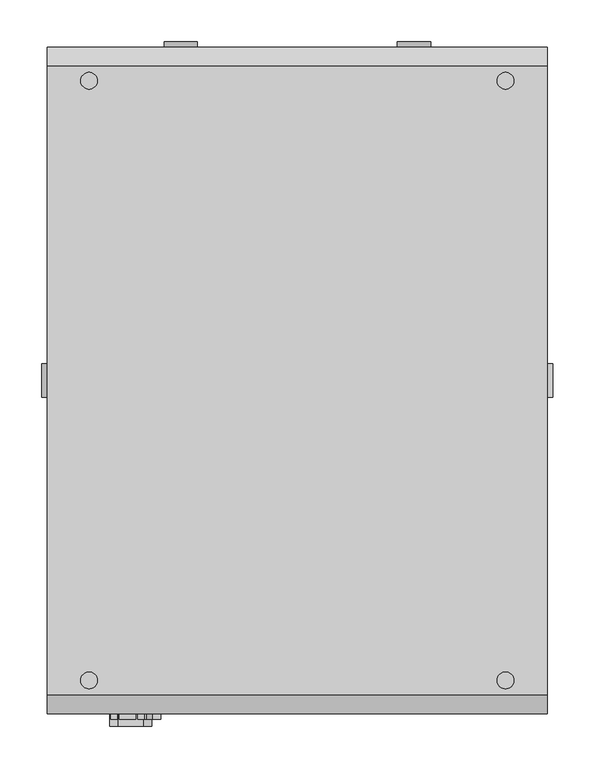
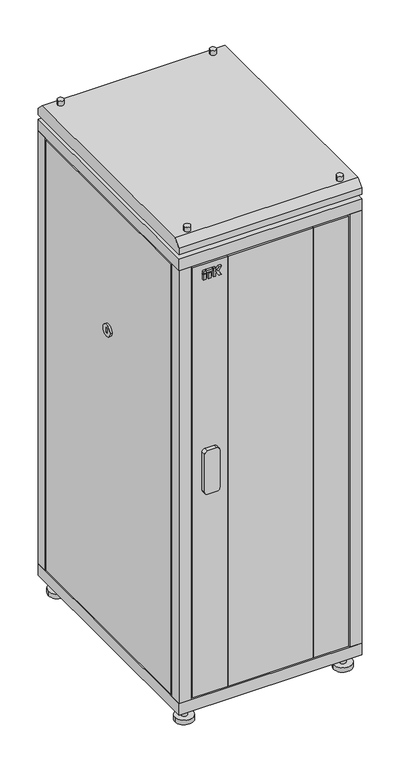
"""IFC4 building model written with IfcOpenShell, lengths in millimetres: proxy geometry, Шкафы ITK серия N_05 : LN05-33U68-G."""

from ifc_helpers import new_model, si_unit, point, frame, frame_2d, origin, origin_with_axes, place, context, project, spatial, polyline, circle_curve, trimmed, segment, composite_curve, outline, extrude, faceted_brep, source, transform, mapped, element, save
from ifc_brep_helpers import plane_surface, cylinder_surface, advanced_brep


def electrical_fixtures_8923b778(model_context):
    return source(origin(), model_context, "Body", "SolidModel", [
        extrude(outline(polyline([(-215.9746193, -407.0), (-224.197592, -407.0), (-224.197592, -400.0), (-215.9746193, -400.0), (-215.9746193, -407.0)])), frame((0.0, 0.0, 1535.0), z_axis=(0.0, 0.0, 1.0), x_axis=(1.0, 0.0, 0.0)), (0.0, 0.0, 1.0), 18.8087618),
        extrude(outline(polyline([(-199.9605777, -407.0), (-207.7053315, -407.0), (-207.7053315, -400.0), (-199.9605777, -400.0), (-199.9605777, -407.0)])), frame((0.0, 0.0, 1535.0), z_axis=(0.0, 0.0, 1.0), x_axis=(1.0, 0.0, 0.0)), (0.0, 0.0, 1.0), 18.8087618),
        extrude(outline(polyline([(-215.9746193, -407.0), (-224.197592, -407.0), (-224.197592, -400.0), (-215.9746193, -400.0), (-215.9746193, -407.0)])), frame((0.0, 0.0, 1556.4305892), z_axis=(0.0, 0.0, 1.0), x_axis=(1.0, 0.0, 0.0)), (0.0, 0.0, 1.0), 7.9794747),
        extrude(outline(polyline([(1535.0, -191.5184175), (1535.0, -183.7669278), (1546.0271455, -183.7669278), (1546.0271455, -180.8031229), (1535.0, -173.6420108), (1535.0, -164.197592), (1549.7278745, -174.8980192), (1564.410064, -164.197592), (1564.410064, -173.6420108), (1553.3829184, -180.8031229), (1553.3829184, -183.7669278), (1564.410064, -183.7669278), (1564.410064, -191.5184175), (1535.0, -191.5184175)])), frame((0.0, -407.0, 0.0), z_axis=(0.0, 1.0, 0.0), x_axis=(0.0, 0.0, 1.0)), (0.0, 0.0, 1.0), 7.0),
        extrude(outline(polyline([(-194.0851324, -407.0), (-213.5807768, -407.0), (-213.5807768, -400.0), (-194.0851324, -400.0), (-194.0851324, -407.0)])), frame((0.0, 0.0, 1556.4305892), z_axis=(0.0, 0.0, 1.0), x_axis=(1.0, 0.0, 0.0)), (0.0, 0.0, 1.0), 7.9794747),
        extrude(outline(composite_curve([segment(polyline([(945.0, -185.0), (945.0, -215.0)]), True, "CONTINUOUS"), segment(trimmed(circle_curve(frame_2d((935.0, -215.0)), 10.0), [point((945.0, -215.0))], [point((935.0, -225.0))], False, "CARTESIAN"), True, "CONTINUOUS"), segment(polyline([(935.0, -225.0), (805.0, -225.0)]), True, "CONTINUOUS"), segment(trimmed(circle_curve(frame_2d((805.0, -215.0)), 10.0), [point((805.0, -225.0))], [point((795.0, -215.0))], False, "CARTESIAN"), True, "CONTINUOUS"), segment(polyline([(795.0, -215.0), (795.0, -185.0)]), True, "CONTINUOUS"), segment(trimmed(circle_curve(frame_2d((805.0, -185.0)), 10.0), [point((795.0, -185.0))], [point((805.0, -175.0))], False, "CARTESIAN"), True, "CONTINUOUS"), segment(polyline([(805.0, -175.0), (935.0, -175.0)]), True, "CONTINUOUS"), segment(trimmed(circle_curve(frame_2d((935.0, -185.0)), 10.0), [point((935.0, -175.0))], [point((945.0, -185.0))], False, "CARTESIAN"), True, "CONTINUOUS")], self_intersect=False)), frame((0.0, -415.0, 0.0), z_axis=(0.0, 1.0, 0.0), x_axis=(0.0, 0.0, 1.0)), (0.0, 0.0, 1.0), 15.0),
        extrude(outline(polyline([(140.0, -380.0), (140.0, -400.0), (-140.0, -400.0), (-140.0, -380.0), (140.0, -380.0)])), frame((0.0, 0.0, 95.0), z_axis=(0.0, 0.0, 1.0), x_axis=(1.0, 0.0, 0.0)), (0.0, 0.0, 1.0), 1490.0),
        extrude(outline(polyline([(255.0, -380.0), (255.0, -400.0), (140.0, -400.0), (140.0, -380.0), (235.0, -380.0), (235.0, -365.0), (245.0, -365.0), (245.0, -380.0), (255.0, -380.0)])), frame((0.0, 0.0, 95.0), z_axis=(0.0, 0.0, 1.0), x_axis=(1.0, 0.0, 0.0)), (0.0, 0.0, 1.0), 1490.0),
        extrude(outline(polyline([(-140.0, -400.0), (-255.0, -400.0), (-255.0, -380.0), (-245.0, -380.0), (-245.0, -365.0), (-235.0, -365.0), (-235.0, -380.0), (-140.0, -380.0), (-140.0, -400.0)])), frame((0.0, 0.0, 95.0), z_axis=(0.0, 0.0, 1.0), x_axis=(1.0, 0.0, 0.0)), (0.0, 0.0, 1.0), 1490.0),
        extrude(outline(composite_curve([segment(trimmed(circle_curve(frame_2d((-260.0, 360.0)), 10.0), [point((-250.0, 360.0))], [point((-270.0, 360.0))], False, "CARTESIAN"), True, "CONTINUOUS"), segment(trimmed(circle_curve(frame_2d((-260.0, 360.0)), 10.0), [point((-270.0, 360.0))], [point((-250.0, 360.0))], False, "CARTESIAN"), True, "CONTINUOUS")], self_intersect=False)), frame((0.0, 0.0, 15.0), z_axis=(0.0, 0.0, 1.0), x_axis=(1.0, 0.0, 0.0)), (0.0, 0.0, 1.0), 35.0),
        extrude(outline(composite_curve([segment(trimmed(circle_curve(frame_2d((260.0, 360.0)), 10.0), [point((270.0, 360.0))], [point((250.0, 360.0))], False, "CARTESIAN"), True, "CONTINUOUS"), segment(trimmed(circle_curve(frame_2d((260.0, 360.0)), 10.0), [point((250.0, 360.0))], [point((270.0, 360.0))], False, "CARTESIAN"), True, "CONTINUOUS")], self_intersect=False)), frame((0.0, 0.0, 15.0), z_axis=(0.0, 0.0, 1.0), x_axis=(1.0, 0.0, 0.0)), (0.0, 0.0, 1.0), 35.0),
        extrude(outline(composite_curve([segment(trimmed(circle_curve(frame_2d((-260.0, -360.0)), 10.0), [point((-250.0, -360.0))], [point((-270.0, -360.0))], False, "CARTESIAN"), True, "CONTINUOUS"), segment(trimmed(circle_curve(frame_2d((-260.0, -360.0)), 10.0), [point((-270.0, -360.0))], [point((-250.0, -360.0))], False, "CARTESIAN"), True, "CONTINUOUS")], self_intersect=False)), frame((0.0, 0.0, 15.0), z_axis=(0.0, 0.0, 1.0), x_axis=(1.0, 0.0, 0.0)), (0.0, 0.0, 1.0), 35.0),
        extrude(outline(composite_curve([segment(trimmed(circle_curve(frame_2d((260.0, -360.0)), 10.0), [point((270.0, -360.0))], [point((250.0, -360.0))], False, "CARTESIAN"), True, "CONTINUOUS"), segment(trimmed(circle_curve(frame_2d((260.0, -360.0)), 10.0), [point((250.0, -360.0))], [point((270.0, -360.0))], False, "CARTESIAN"), True, "CONTINUOUS")], self_intersect=False)), frame((0.0, 0.0, 15.0), z_axis=(0.0, 0.0, 1.0), x_axis=(1.0, 0.0, 0.0)), (0.0, 0.0, 1.0), 35.0),
        extrude(outline(composite_curve([segment(trimmed(circle_curve(frame_2d((-260.0, 360.0)), 30.0), [point((-230.0, 360.0))], [point((-290.0, 360.0))], False, "CARTESIAN"), True, "CONTINUOUS"), segment(trimmed(circle_curve(frame_2d((-260.0, 360.0)), 30.0), [point((-290.0, 360.0))], [point((-230.0, 360.0))], False, "CARTESIAN"), True, "CONTINUOUS")], self_intersect=False)), origin_with_axes(), (0.0, 0.0, 1.0), 15.0),
        extrude(outline(composite_curve([segment(trimmed(circle_curve(frame_2d((260.0, 360.0)), 30.0), [point((290.0, 360.0))], [point((230.0, 360.0))], False, "CARTESIAN"), True, "CONTINUOUS"), segment(trimmed(circle_curve(frame_2d((260.0, 360.0)), 30.0), [point((230.0, 360.0))], [point((290.0, 360.0))], False, "CARTESIAN"), True, "CONTINUOUS")], self_intersect=False)), origin_with_axes(), (0.0, 0.0, 1.0), 15.0),
        extrude(outline(composite_curve([segment(trimmed(circle_curve(frame_2d((-260.0, -360.0)), 30.0), [point((-230.0, -360.0))], [point((-290.0, -360.0))], False, "CARTESIAN"), True, "CONTINUOUS"), segment(trimmed(circle_curve(frame_2d((-260.0, -360.0)), 30.0), [point((-290.0, -360.0))], [point((-230.0, -360.0))], False, "CARTESIAN"), True, "CONTINUOUS")], self_intersect=False)), origin_with_axes(), (0.0, 0.0, 1.0), 15.0),
        extrude(outline(composite_curve([segment(trimmed(circle_curve(frame_2d((260.0, -360.0)), 30.0), [point((290.0, -360.0))], [point((230.0, -360.0))], False, "CARTESIAN"), True, "CONTINUOUS"), segment(trimmed(circle_curve(frame_2d((260.0, -360.0)), 30.0), [point((230.0, -360.0))], [point((290.0, -360.0))], False, "CARTESIAN"), True, "CONTINUOUS")], self_intersect=False)), origin_with_axes(), (0.0, 0.0, 1.0), 15.0),
        advanced_brep(
        [(260.0, 360.0, 1705.0), (240.0, 360.0, 1705.0), (260.0, -360.0, 1705.0), (240.0, -360.0, 1705.0), (-240.0, 360.0, 1705.0), (-260.0, 360.0, 1705.0), (-240.0, -360.0, 1705.0), (-260.0, -360.0, 1705.0), (260.0, 360.0, 1630.0), (240.0, 360.0, 1630.0), (260.0, -360.0, 1630.0), (240.0, -360.0, 1630.0), (-240.0, 360.0, 1630.0), (-260.0, 360.0, 1630.0), (-240.0, -360.0, 1630.0), (-260.0, -360.0, 1630.0), (260.0, 360.0, 1690.0), (240.0, 360.0, 1690.0), (240.0, 360.0, 1645.0), (260.0, 360.0, 1645.0), (260.0, -360.0, 1690.0), (240.0, -360.0, 1690.0), (240.0, -360.0, 1645.0), (260.0, -360.0, 1645.0), (-240.0, 360.0, 1690.0), (-260.0, 360.0, 1690.0), (-260.0, 360.0, 1645.0), (-240.0, 360.0, 1645.0), (-240.0, -360.0, 1690.0), (-260.0, -360.0, 1690.0), (-260.0, -360.0, 1645.0), (-240.0, -360.0, 1645.0), (300.0, 377.5, 1690.0), (300.0, -377.5, 1690.0), (300.0, -400.0, 1667.5), (300.0, -400.0, 1645.0), (300.0, 400.0, 1645.0), (300.0, 400.0, 1667.5), (-300.0, 377.5, 1690.0), (-300.0, 400.0, 1667.5), (-300.0, 400.0, 1645.0), (-300.0, -400.0, 1645.0), (-300.0, -400.0, 1667.5), (-300.0, -377.5, 1690.0)],
        [
            (0, 1, circle_curve(frame((250.0, 360.0, 1705.0), z_axis=(0.0, 0.0, 1.0), x_axis=(-1.0, 0.0, 0.0)), 10.0)),
            (1, 0, circle_curve(frame((250.0, 360.0, 1705.0), z_axis=(0.0, 0.0, 1.0), x_axis=(-1.0, 0.0, 0.0)), 10.0)),
            (2, 3, circle_curve(frame((250.0, -360.0, 1705.0), z_axis=(0.0, 0.0, 1.0), x_axis=(-1.0, 0.0, 0.0)), 10.0)),
            (3, 2, circle_curve(frame((250.0, -360.0, 1705.0), z_axis=(0.0, 0.0, 1.0), x_axis=(-1.0, 0.0, 0.0)), 10.0)),
            (4, 5, circle_curve(frame((-250.0, 360.0, 1705.0), z_axis=(0.0, 0.0, 1.0), x_axis=(-1.0, 0.0, 0.0)), 10.0)),
            (5, 4, circle_curve(frame((-250.0, 360.0, 1705.0), z_axis=(0.0, 0.0, 1.0), x_axis=(-1.0, 0.0, 0.0)), 10.0)),
            (6, 7, circle_curve(frame((-250.0, -360.0, 1705.0), z_axis=(0.0, 0.0, 1.0), x_axis=(-1.0, 0.0, 0.0)), 10.0)),
            (7, 6, circle_curve(frame((-250.0, -360.0, 1705.0), z_axis=(0.0, 0.0, 1.0), x_axis=(-1.0, 0.0, 0.0)), 10.0)),
            (8, 9, circle_curve(frame((250.0, 360.0, 1630.0), z_axis=(0.0, 0.0, -1.0), x_axis=(-1.0, 0.0, 0.0)), 10.0)),
            (9, 8, circle_curve(frame((250.0, 360.0, 1630.0), z_axis=(0.0, 0.0, -1.0), x_axis=(-1.0, 0.0, 0.0)), 10.0)),
            (10, 11, circle_curve(frame((250.0, -360.0, 1630.0), z_axis=(0.0, 0.0, -1.0), x_axis=(-1.0, 0.0, 0.0)), 10.0)),
            (11, 10, circle_curve(frame((250.0, -360.0, 1630.0), z_axis=(0.0, 0.0, -1.0), x_axis=(-1.0, 0.0, 0.0)), 10.0)),
            (12, 13, circle_curve(frame((-250.0, 360.0, 1630.0), z_axis=(0.0, 0.0, -1.0), x_axis=(-1.0, 0.0, 0.0)), 10.0)),
            (13, 12, circle_curve(frame((-250.0, 360.0, 1630.0), z_axis=(0.0, 0.0, -1.0), x_axis=(-1.0, 0.0, 0.0)), 10.0)),
            (14, 15, circle_curve(frame((-250.0, -360.0, 1630.0), z_axis=(0.0, 0.0, -1.0), x_axis=(-1.0, 0.0, 0.0)), 10.0)),
            (15, 14, circle_curve(frame((-250.0, -360.0, 1630.0), z_axis=(0.0, 0.0, -1.0), x_axis=(-1.0, 0.0, 0.0)), 10.0)),
            (0, 16),
            (16, 17, circle_curve(frame((250.0, 360.0, 1690.0), z_axis=(0.0, 0.0, 1.0), x_axis=(-1.0, 0.0, 0.0)), 10.0)),
            (17, 1),
            (9, 18),
            (18, 19, circle_curve(frame((250.0, 360.0, 1645.0), z_axis=(0.0, 0.0, -1.0), x_axis=(-1.0, 0.0, 0.0)), 10.0)),
            (19, 8),
            (17, 16, circle_curve(frame((250.0, 360.0, 1690.0), z_axis=(0.0, 0.0, 1.0), x_axis=(-1.0, 0.0, 0.0)), 10.0)),
            (19, 18, circle_curve(frame((250.0, 360.0, 1645.0), z_axis=(0.0, 0.0, -1.0), x_axis=(-1.0, 0.0, 0.0)), 10.0)),
            (2, 20),
            (20, 21, circle_curve(frame((250.0, -360.0, 1690.0), z_axis=(0.0, 0.0, 1.0), x_axis=(-1.0, 0.0, 0.0)), 10.0)),
            (21, 3),
            (11, 22),
            (22, 23, circle_curve(frame((250.0, -360.0, 1645.0), z_axis=(0.0, 0.0, -1.0), x_axis=(-1.0, 0.0, 0.0)), 10.0)),
            (23, 10),
            (21, 20, circle_curve(frame((250.0, -360.0, 1690.0), z_axis=(0.0, 0.0, 1.0), x_axis=(-1.0, 0.0, 0.0)), 10.0)),
            (23, 22, circle_curve(frame((250.0, -360.0, 1645.0), z_axis=(0.0, 0.0, -1.0), x_axis=(-1.0, 0.0, 0.0)), 10.0)),
            (4, 24),
            (24, 25, circle_curve(frame((-250.0, 360.0, 1690.0), z_axis=(0.0, 0.0, 1.0), x_axis=(-1.0, 0.0, 0.0)), 10.0)),
            (25, 5),
            (13, 26),
            (26, 27, circle_curve(frame((-250.0, 360.0, 1645.0), z_axis=(0.0, 0.0, -1.0), x_axis=(-1.0, 0.0, 0.0)), 10.0)),
            (27, 12),
            (25, 24, circle_curve(frame((-250.0, 360.0, 1690.0), z_axis=(0.0, 0.0, 1.0), x_axis=(-1.0, 0.0, 0.0)), 10.0)),
            (27, 26, circle_curve(frame((-250.0, 360.0, 1645.0), z_axis=(0.0, 0.0, -1.0), x_axis=(-1.0, 0.0, 0.0)), 10.0)),
            (6, 28),
            (28, 29, circle_curve(frame((-250.0, -360.0, 1690.0), z_axis=(0.0, 0.0, 1.0), x_axis=(-1.0, 0.0, 0.0)), 10.0)),
            (29, 7),
            (15, 30),
            (30, 31, circle_curve(frame((-250.0, -360.0, 1645.0), z_axis=(0.0, 0.0, -1.0), x_axis=(-1.0, 0.0, 0.0)), 10.0)),
            (31, 14),
            (29, 28, circle_curve(frame((-250.0, -360.0, 1690.0), z_axis=(0.0, 0.0, 1.0), x_axis=(-1.0, 0.0, 0.0)), 10.0)),
            (31, 30, circle_curve(frame((-250.0, -360.0, 1645.0), z_axis=(0.0, 0.0, -1.0), x_axis=(-1.0, 0.0, 0.0)), 10.0)),
            (32, 33),
            (33, 34),
            (34, 35),
            (35, 36),
            (36, 37),
            (37, 32),
            (38, 39),
            (39, 40),
            (40, 41),
            (41, 42),
            (42, 43),
            (43, 38),
            (32, 38),
            (43, 33),
            (42, 34),
            (41, 35),
            (40, 36),
            (39, 37),
        ],
        [
            plane_surface(frame((240.0, 360.0, 1705.0), z_axis=(0.0, 0.0, 1.0), x_axis=(0.0, -1.0, 0.0))),
            plane_surface(frame((240.0, 360.0, 1630.0), z_axis=(0.0, 0.0, -1.0), x_axis=(0.0, 1.0, 0.0))),
            cylinder_surface(frame((250.0, 360.0, 1630.0), z_axis=(0.0, 0.0, 1.0), x_axis=(-1.0, 0.0, 0.0)), 10.0),
            cylinder_surface(frame((250.0, -360.0, 1710.0), z_axis=(0.0, 0.0, 1.0), x_axis=(-1.0, 0.0, 0.0)), 10.0),
            cylinder_surface(frame((-250.0, 360.0, 1710.0), z_axis=(0.0, 0.0, 1.0), x_axis=(-1.0, 0.0, 0.0)), 10.0),
            cylinder_surface(frame((-250.0, -360.0, 1710.0), z_axis=(0.0, 0.0, 1.0), x_axis=(-1.0, 0.0, 0.0)), 10.0),
            plane_surface(frame((300.0, -377.5, 1690.0), z_axis=(1.0, 0.0, 0.0), x_axis=(0.0, -1.0, 0.0))),
            plane_surface(frame((-300.0, -377.5, 1690.0), z_axis=(-1.0, 0.0, 0.0), x_axis=(0.0, 1.0, 0.0))),
            plane_surface(frame((300.0, 377.5, 1690.0), z_axis=(0.0, 0.0, 1.0), x_axis=(-1.0, 0.0, 0.0))),
            plane_surface(frame((300.0, -377.5, 1690.0), z_axis=(0.0, -0.7071067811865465, 0.7071067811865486), x_axis=(-1.0, 0.0, 0.0))),
            plane_surface(frame((300.0, -400.0, 1667.5), z_axis=(0.0, -1.0, 0.0), x_axis=(-1.0, 0.0, 0.0))),
            plane_surface(frame((300.0, -400.0, 1645.0), z_axis=(0.0, 0.0, -1.0), x_axis=(-1.0, 0.0, 0.0))),
            plane_surface(frame((300.0, 400.0, 1645.0), z_axis=(0.0, 1.0, 0.0), x_axis=(-1.0, 0.0, 0.0))),
            plane_surface(frame((300.0, 400.0, 1667.5), z_axis=(0.0, 0.7071067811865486, 0.7071067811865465), x_axis=(-1.0, 0.0, 0.0))),
        ],
        [
            (0, [[1, 2]]),
            (0, [[3, 4]]),
            (0, [[5, 6]]),
            (0, [[7, 8]]),
            (1, [[9, 10]]),
            (1, [[11, 12]]),
            (1, [[13, 14]]),
            (1, [[15, 16]]),
            (2, [[-1, 17, 18, 19]]),
            (2, [[-10, 20, 21, 22]]),
            (2, [[-2, -19, 23, -17]]),
            (2, [[-9, -22, 24, -20]]),
            (3, [[-3, 25, 26, 27]]),
            (3, [[-12, 28, 29, 30]]),
            (3, [[-4, -27, 31, -25]]),
            (3, [[-11, -30, 32, -28]]),
            (4, [[-5, 33, 34, 35]]),
            (4, [[-14, 36, 37, 38]]),
            (4, [[-6, -35, 39, -33]]),
            (4, [[-13, -38, 40, -36]]),
            (5, [[-7, 41, 42, 43]]),
            (5, [[-16, 44, 45, 46]]),
            (5, [[-8, -43, 47, -41]]),
            (5, [[-15, -46, 48, -44]]),
            (6, [[49, 50, 51, 52, 53, 54]]),
            (7, [[55, 56, 57, 58, 59, 60]]),
            (8, [[-49, 61, -60, 62], [-18, -23], [-26, -31], [-34, -39], [-42, -47]]),
            (9, [[-50, -62, -59, 63]]),
            (10, [[-51, -63, -58, 64]]),
            (11, [[-52, -64, -57, 65], [-21, -24], [-29, -32], [-37, -40], [-45, -48]]),
            (12, [[-53, -65, -56, 66]]),
            (13, [[-54, -66, -55, -61]]),
        ],
    ),
        extrude(outline(polyline([(260.0, 360.0), (260.0, 345.0), (290.0, 345.0), (290.0, -345.0), (260.0, -345.0), (260.0, -360.0), (245.0, -360.0), (245.0, -380.0), (-245.0, -380.0), (-245.0, -360.0), (-260.0, -360.0), (-260.0, -345.0), (-290.0, -345.0), (-290.0, 345.0), (-260.0, 345.0), (-260.0, 360.0), (-245.0, 360.0), (-245.0, 390.0), (245.0, 390.0), (245.0, 360.0), (260.0, 360.0)])), frame((0.0, 0.0, 90.0), z_axis=(0.0, 0.0, 1.0), x_axis=(1.0, 0.0, 0.0)), (0.0, 0.0, 1.0), 5.0),
        extrude(outline(polyline([(260.0, 360.0), (260.0, 345.0), (290.0, 345.0), (290.0, -345.0), (260.0, -345.0), (260.0, -360.0), (245.0, -360.0), (245.0, -380.0), (-245.0, -380.0), (-245.0, -360.0), (-260.0, -360.0), (-260.0, -345.0), (-290.0, -345.0), (-290.0, 345.0), (-260.0, 345.0), (-260.0, 360.0), (-245.0, 360.0), (-245.0, 390.0), (245.0, 390.0), (245.0, 360.0), (260.0, 360.0)])), frame((0.0, 0.0, 1585.0), z_axis=(0.0, 0.0, 1.0), x_axis=(1.0, 0.0, 0.0)), (0.0, 0.0, 1.0), 5.0),
        extrude(outline(polyline([(300.0, -400.0), (-300.0, -400.0), (-300.0, 400.0), (300.0, 400.0), (300.0, -400.0)])), frame((0.0, 0.0, 1590.0), z_axis=(0.0, 0.0, 1.0), x_axis=(1.0, 0.0, 0.0)), (0.0, 0.0, 1.0), 40.0),
        extrude(outline(polyline([(300.0, -400.0), (-300.0, -400.0), (-300.0, 400.0), (300.0, 400.0), (300.0, -400.0)])), frame((0.0, 0.0, 50.0), z_axis=(0.0, 0.0, 1.0), x_axis=(1.0, 0.0, 0.0)), (0.0, 0.0, 1.0), 40.0),
        extrude(outline(composite_curve([segment(trimmed(circle_curve(frame_2d((840.0, 140.0)), 20.0), [point((840.0, 160.0))], [point((840.0, 120.0))], False, "CARTESIAN"), True, "CONTINUOUS"), segment(trimmed(circle_curve(frame_2d((840.0, 140.0)), 20.0), [point((840.0, 120.0))], [point((840.0, 160.0))], False, "CARTESIAN"), True, "CONTINUOUS")], self_intersect=False), holes=[polyline([(831.7814397, 137.0), (848.2185603, 137.0), (848.2185603, 143.0), (831.7814397, 143.0), (831.7814397, 137.0)])]), frame((0.0, 400.0, 0.0), z_axis=(0.0, 1.0, 0.0), x_axis=(0.0, 0.0, 1.0)), (0.0, 0.0, 1.0), 7.0),
        extrude(outline(composite_curve([segment(trimmed(circle_curve(frame_2d((840.0, -140.0)), 20.0), [point((840.0, -120.0))], [point((840.0, -160.0))], False, "CARTESIAN"), True, "CONTINUOUS"), segment(trimmed(circle_curve(frame_2d((840.0, -140.0)), 20.0), [point((840.0, -160.0))], [point((840.0, -120.0))], False, "CARTESIAN"), True, "CONTINUOUS")], self_intersect=False), holes=[polyline([(831.7814397, -143.0), (848.2185603, -143.0), (848.2185603, -137.0), (831.7814397, -137.0), (831.7814397, -143.0)])]), frame((0.0, 400.0, 0.0), z_axis=(0.0, 1.0, 0.0), x_axis=(0.0, 0.0, 1.0)), (0.0, 0.0, 1.0), 7.0),
        faceted_brep([(255.0, 400.0, 1585.0), (-255.0, 400.0, 1585.0), (-255.0, 370.0, 1585.0), (-245.0, 370.0, 1585.0), (-245.0, 390.0, 1585.0), (245.0, 390.0, 1585.0), (245.0, 370.0, 1585.0), (255.0, 370.0, 1585.0), (255.0, 400.0, 1412.5265979), (-255.0, 400.0, 1412.5265979), (175.0, 400.0, 1460.0), (175.0, 400.0, 1540.0), (-175.0, 400.0, 1540.0), (-175.0, 400.0, 1460.0), (-255.0, 370.0, 1412.5265979), (-245.0, 370.0, 1412.5265979), (-245.0, 390.0, 1412.5265979), (245.0, 390.0, 1412.5265979), (175.0, 390.0, 1540.0), (175.0, 390.0, 1460.0), (-175.0, 390.0, 1460.0), (-175.0, 390.0, 1540.0), (245.0, 370.0, 1412.5265979), (255.0, 370.0, 1412.5265979)], [[[0, 1, 2, 3, 4, 5, 6, 7]], [[1, 0, 8, 9], [10, 11, 12, 13]], [[2, 1, 9, 14]], [[3, 2, 14, 15]], [[4, 3, 15, 16]], [[5, 4, 16, 17], [18, 19, 20, 21]], [[6, 5, 17, 22]], [[7, 6, 22, 23]], [[0, 7, 23, 8]], [[9, 8, 23, 22, 17, 16, 15, 14]], [[10, 19, 18, 11]], [[11, 18, 21, 12]], [[12, 21, 20, 13]], [[19, 10, 13, 20]]]),
        faceted_brep([(255.0, 400.0, 95.0), (255.0, 370.0, 95.0), (245.0, 370.0, 95.0), (245.0, 390.0, 95.0), (-245.0, 390.0, 95.0), (-245.0, 370.0, 95.0), (-255.0, 370.0, 95.0), (-255.0, 400.0, 95.0), (-255.0, 400.0, 267.4734021), (255.0, 400.0, 267.4734021), (175.0, 400.0, 220.0), (-175.0, 400.0, 220.0), (-175.0, 400.0, 140.0), (175.0, 400.0, 140.0), (-255.0, 370.0, 267.4734021), (-245.0, 370.0, 267.4734021), (-245.0, 390.0, 267.4734021), (245.0, 390.0, 267.4734021), (-175.0, 390.0, 220.0), (175.0, 390.0, 220.0), (175.0, 390.0, 140.0), (-175.0, 390.0, 140.0), (245.0, 370.0, 267.4734021), (255.0, 370.0, 267.4734021)], [[[0, 1, 2, 3, 4, 5, 6, 7]], [[0, 7, 8, 9], [10, 11, 12, 13]], [[7, 6, 14, 8]], [[6, 5, 15, 14]], [[5, 4, 16, 15]], [[4, 3, 17, 16], [18, 19, 20, 21]], [[3, 2, 22, 17]], [[2, 1, 23, 22]], [[1, 0, 9, 23]], [[9, 8, 14, 15, 16, 17, 22, 23]], [[10, 19, 18, 11]], [[11, 18, 21, 12]], [[12, 21, 20, 13]], [[19, 10, 13, 20]]]),
        faceted_brep([(255.0, 400.0, 1407.4734021), (255.0, 400.0, 272.5265979), (-255.0, 400.0, 272.5265979), (-255.0, 400.0, 1407.4734021), (-255.0, 370.0, 272.5265979), (-255.0, 370.0, 1407.4734021), (-245.0, 370.0, 272.5265979), (-245.0, 370.0, 1407.4734021), (-245.0, 390.0, 272.5265979), (-245.0, 390.0, 1407.4734021), (245.0, 390.0, 272.5265979), (245.0, 390.0, 1407.4734021), (245.0, 370.0, 272.5265979), (245.0, 370.0, 1407.4734021), (255.0, 370.0, 272.5265979), (255.0, 370.0, 1407.4734021)], [[[0, 1, 2, 3]], [[3, 2, 4, 5]], [[5, 4, 6, 7]], [[7, 6, 8, 9]], [[9, 8, 10, 11]], [[11, 10, 12, 13]], [[13, 12, 14, 15]], [[1, 0, 15, 14]], [[2, 1, 14, 12, 10, 8, 6, 4]], [[0, 3, 5, 7, 9, 11, 13, 15]]]),
        faceted_brep([(-170.0, 400.0, 215.0), (170.0, 400.0, 215.0), (170.0, 400.0, 145.0), (-170.0, 400.0, 145.0), (170.0, 390.0, 215.0), (-170.0, 390.0, 215.0), (-170.0, 390.0, 145.0), (170.0, 390.0, 145.0)], [[[0, 1, 2, 3]], [[4, 5, 6, 7]], [[0, 5, 4, 1]], [[1, 4, 7, 2]], [[2, 7, 6, 3]], [[5, 0, 3, 6]]]),
        faceted_brep([(-170.0, 400.0, 1465.0), (-170.0, 400.0, 1535.0), (170.0, 400.0, 1535.0), (170.0, 400.0, 1465.0), (-170.0, 390.0, 1535.0), (-170.0, 390.0, 1465.0), (170.0, 390.0, 1465.0), (170.0, 390.0, 1535.0)], [[[0, 1, 2, 3]], [[4, 5, 6, 7]], [[0, 5, 4, 1]], [[1, 4, 7, 2]], [[2, 7, 6, 3]], [[5, 0, 3, 6]]]),
        extrude(outline(composite_curve([segment(trimmed(circle_curve(frame_2d((0.0, 1143.3333333)), 20.0), [point((-20.0, 1143.3333333))], [point((20.0, 1143.3333333))], False, "CARTESIAN"), True, "CONTINUOUS"), segment(trimmed(circle_curve(frame_2d((0.0, 1143.3333333)), 20.0), [point((20.0, 1143.3333333))], [point((-20.0, 1143.3333333))], False, "CARTESIAN"), True, "CONTINUOUS")], self_intersect=False), holes=[polyline([(3.0, 1135.114773), (3.0, 1151.5518937), (-3.0, 1151.5518937), (-3.0, 1135.114773), (3.0, 1135.114773)])]), frame((300.0, 0.0, 0.0), z_axis=(1.0, 0.0, 0.0), x_axis=(0.0, 1.0, 0.0)), (0.0, 0.0, 1.0), 7.0),
        extrude(outline(composite_curve([segment(trimmed(circle_curve(frame_2d((0.0, 1143.3333333)), 20.0), [point((20.0, 1143.3333333))], [point((-20.0, 1143.3333333))], False, "CARTESIAN"), True, "CONTINUOUS"), segment(trimmed(circle_curve(frame_2d((0.0, 1143.3333333)), 20.0), [point((-20.0, 1143.3333333))], [point((20.0, 1143.3333333))], False, "CARTESIAN"), True, "CONTINUOUS")], self_intersect=False), holes=[polyline([(-3.0, 1135.114773), (3.0, 1135.114773), (3.0, 1151.5518937), (-3.0, 1151.5518937), (-3.0, 1135.114773)])]), frame((-307.0, 0.0, 0.0), z_axis=(1.0, 0.0, 0.0), x_axis=(0.0, 1.0, 0.0)), (0.0, 0.0, 1.0), 7.0),
        extrude(outline(polyline([(-270.0, 355.0), (-270.0, 345.0), (-289.9803177, 345.0), (-289.9803177, -345.0), (-269.9803177, -345.0), (-269.9803177, -355.0), (-300.0, -355.0), (-300.0, 355.0), (-270.0, 355.0)])), frame((0.0, 0.0, 95.0), z_axis=(0.0, 0.0, 1.0), x_axis=(1.0, 0.0, 0.0)), (0.0, 0.0, 1.0), 1490.0),
        extrude(outline(polyline([(269.9803177, 355.0), (300.0, 355.0), (300.0, -355.0), (269.9803177, -355.0), (269.9803177, -345.0), (289.9803177, -345.0), (289.9803177, 345.0), (269.9803177, 345.0), (269.9803177, 355.0)])), frame((0.0, 0.0, 95.0), z_axis=(0.0, 0.0, 1.0), x_axis=(1.0, 0.0, 0.0)), (0.0, 0.0, 1.0), 1490.0),
        extrude(outline(polyline([(-270.0, -360.0), (-270.0, -345.0), (-260.0, -345.0), (-260.0, -360.0), (-245.0, -360.0), (-245.0, -380.0), (-260.0, -380.0), (-260.0, -400.0), (-300.0, -400.0), (-300.0, -360.0), (-270.0, -360.0)]), holes=[polyline([(-267.0, -363.0), (-297.0, -363.0), (-297.0, -397.0), (-263.0, -397.0), (-263.0, -377.0), (-248.0, -377.0), (-248.0, -363.0), (-263.0, -363.0), (-263.0, -348.0), (-267.0, -348.0), (-267.0, -363.0)])]), frame((0.0, 0.0, 90.0), z_axis=(0.0, 0.0, 1.0), x_axis=(1.0, 0.0, 0.0)), (0.0, 0.0, 1.0), 1500.0),
        extrude(outline(polyline([(270.0, -360.0), (300.0, -360.0), (300.0, -400.0), (260.0, -400.0), (260.0, -380.0), (245.0, -380.0), (245.0, -360.0), (260.0, -360.0), (260.0, -345.0), (270.0, -345.0), (270.0, -360.0)]), holes=[polyline([(297.0, -397.0), (297.0, -363.0), (267.0, -363.0), (267.0, -348.0), (263.0, -348.0), (263.0, -363.0), (248.0, -363.0), (248.0, -377.0), (263.0, -377.0), (263.0, -397.0), (297.0, -397.0)])]), frame((0.0, 0.0, 90.0), z_axis=(0.0, 0.0, 1.0), x_axis=(1.0, 0.0, 0.0)), (0.0, 0.0, 1.0), 1500.0),
        extrude(outline(polyline([(270.0, 360.0), (270.0, 345.0), (260.0, 345.0), (260.0, 360.0), (245.0, 360.0), (245.0, 370.0), (260.0, 370.0), (260.0, 400.0), (300.0, 400.0), (300.0, 360.0), (270.0, 360.0)]), holes=[polyline([(297.0, 363.0), (297.0, 397.0), (263.0, 397.0), (263.0, 367.0), (248.0, 367.0), (248.0, 363.0), (263.0, 363.0), (263.0, 348.0), (267.0, 348.0), (267.0, 363.0), (297.0, 363.0)])]), frame((0.0, 0.0, 90.0), z_axis=(0.0, 0.0, 1.0), x_axis=(1.0, 0.0, 0.0)), (0.0, 0.0, 1.0), 1500.0),
        extrude(outline(polyline([(-270.0, 360.0), (-300.0, 360.0), (-300.0, 400.0), (-260.0, 400.0), (-260.0, 370.0), (-245.0, 370.0), (-245.0, 360.0), (-260.0, 360.0), (-260.0, 345.0), (-270.0, 345.0), (-270.0, 360.0)]), holes=[polyline([(-297.0, 397.0), (-297.0, 363.0), (-267.0, 363.0), (-267.0, 348.0), (-263.0, 348.0), (-263.0, 363.0), (-248.0, 363.0), (-248.0, 367.0), (-263.0, 367.0), (-263.0, 397.0), (-297.0, 397.0)])]), frame((0.0, 0.0, 90.0), z_axis=(0.0, 0.0, 1.0), x_axis=(1.0, 0.0, 0.0)), (0.0, 0.0, 1.0), 1500.0),
    ])


if __name__ == "__main__":
    model = new_model("IFC4")
    model_context = context("Model", 3, world=origin())
    ifc_project = project(units=[si_unit("LENGTHUNIT", "METRE", prefix="MILLI")], contexts=[model_context])
    site = spatial("IfcSite", under=ifc_project)
    building = spatial("IfcBuilding", under=site)
    placement = place(None, origin())
    electrical_fixtures_shape = electrical_fixtures_8923b778(model_context)
    element("IfcBuildingElementProxy", 1, Name="Шкафы ITK серия N_05 : LN05-33U68-G", ObjectType="Шкафы ITK серия N_05 : LN05-33U68-G", at=placement, inside=building, context=model_context, shape_type="MappedRepresentation", body=[
        mapped(electrical_fixtures_shape, transform((0.0, 0.0, 0.0), x_axis=(1.0, 0.0, 0.0), y_axis=(0.0, 1.0, 0.0), z_axis=(0.0, 0.0, 1.0))),
    ])
    save(model, "model.ifc")
